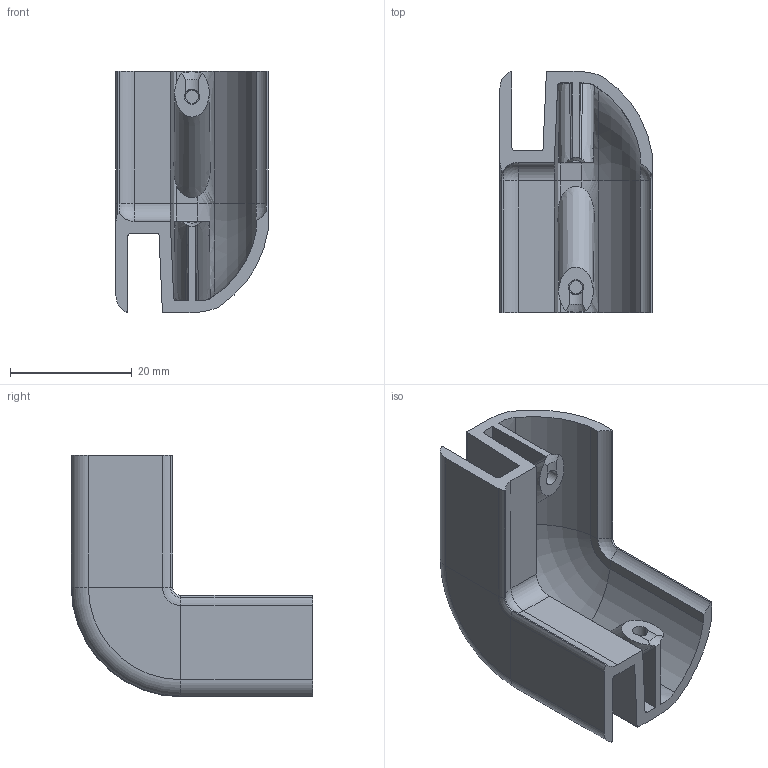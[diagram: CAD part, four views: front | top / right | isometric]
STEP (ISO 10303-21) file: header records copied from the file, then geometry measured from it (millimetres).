
FILE_DESCRIPTION (( 'STEP AP203' ), '1' );
FILE_NAME ('013.025.116.STEP', '2020-09-21T06:58:58', ( '' ), ( '' ), 'SwSTEP 2.0', 'SolidWorks 2018', '' );
FILE_SCHEMA (( 'CONFIG_CONTROL_DESIGN' ));
Length unit declared in the file: millimetre
Products named in the file (1): 013.025.116
Bounding box: 25 x 39.7 x 39.7 mm (x, y, z)
Volume: 7927.7 mm3; surface area: 8439.6 mm2
Topology: 1 solids, 1 shells, 106 faces, 261 edges, 156 vertices
Faces by surface type: plane 42, cylinder 34, torus 12, bspline 10, cone 6, sphere 2
Entity records: 3423 total; most frequent: CARTESIAN_POINT 933, ORIENTED_EDGE 520, DIRECTION 494, EDGE_CURVE 260, AXIS2_PLACEMENT_3D 187, VERTEX_POINT 156, VECTOR 120, LINE 120
